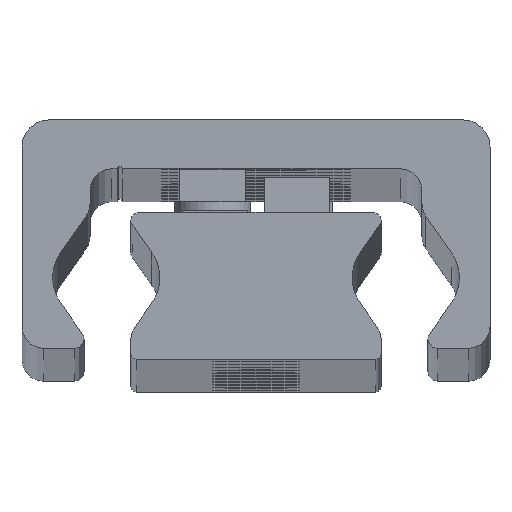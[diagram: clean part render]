
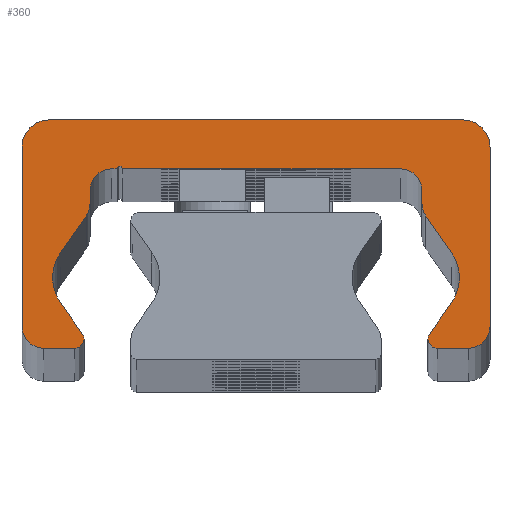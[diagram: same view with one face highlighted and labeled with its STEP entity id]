
A CAD part, top view. The second image highlights one B-rep face of the part: STEP entity #360.
In plain terms, the highlighted planar face has unit normal (0, 0, 1).
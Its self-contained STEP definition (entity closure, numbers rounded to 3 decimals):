
#360=ADVANCED_FACE('',(#1046),#1047,.T.);
#1046=FACE_OUTER_BOUND('',#1733,.T.);
#1047=PLANE('',#1734);
#1733=EDGE_LOOP('',(#4026,#4027,#4028,#4029,#4030,#4031,#4032,#4033,#4034,#4035,#4036,#4037,#4038,#4039,#4040,#4041,#4042,#4043,#4044,#4045,#4046,#4047,#4048,#4049,#4050,#4051,#4052,#4053,#4054,#4055));
#1734=AXIS2_PLACEMENT_3D('',#4056,#4057,#4058);
#4026=ORIENTED_EDGE('',*,*,#4499,.F.);
#4027=ORIENTED_EDGE('',*,*,#4822,.F.);
#4028=ORIENTED_EDGE('',*,*,#4485,.F.);
#4029=ORIENTED_EDGE('',*,*,#4821,.F.);
#4030=ORIENTED_EDGE('',*,*,#4817,.F.);
#4031=ORIENTED_EDGE('',*,*,#4814,.F.);
#4032=ORIENTED_EDGE('',*,*,#4811,.F.);
#4033=ORIENTED_EDGE('',*,*,#4808,.F.);
#4034=ORIENTED_EDGE('',*,*,#4805,.F.);
#4035=ORIENTED_EDGE('',*,*,#4802,.F.);
#4036=ORIENTED_EDGE('',*,*,#4799,.F.);
#4037=ORIENTED_EDGE('',*,*,#4796,.F.);
#4038=ORIENTED_EDGE('',*,*,#4793,.F.);
#4039=ORIENTED_EDGE('',*,*,#4790,.F.);
#4040=ORIENTED_EDGE('',*,*,#4491,.F.);
#4041=ORIENTED_EDGE('',*,*,#4788,.F.);
#4042=ORIENTED_EDGE('',*,*,#4493,.F.);
#4043=ORIENTED_EDGE('',*,*,#4787,.F.);
#4044=ORIENTED_EDGE('',*,*,#4783,.F.);
#4045=ORIENTED_EDGE('',*,*,#4780,.F.);
#4046=ORIENTED_EDGE('',*,*,#4777,.F.);
#4047=ORIENTED_EDGE('',*,*,#4774,.F.);
#4048=ORIENTED_EDGE('',*,*,#4771,.F.);
#4049=ORIENTED_EDGE('',*,*,#4768,.F.);
#4050=ORIENTED_EDGE('',*,*,#4765,.F.);
#4051=ORIENTED_EDGE('',*,*,#4762,.F.);
#4052=ORIENTED_EDGE('',*,*,#4759,.F.);
#4053=ORIENTED_EDGE('',*,*,#4756,.F.);
#4054=ORIENTED_EDGE('',*,*,#4753,.F.);
#4055=ORIENTED_EDGE('',*,*,#4750,.F.);
#4056=CARTESIAN_POINT('',(-0.023,14.187,1730.0));
#4057=DIRECTION('',(0.0,0.0,1.0));
#4058=DIRECTION('',(1.0,0.0,0.0));
#4485=EDGE_CURVE('',#5448,#5451,#5452,.T.);
#4491=EDGE_CURVE('',#5461,#5457,#5463,.T.);
#4493=EDGE_CURVE('',#5464,#5467,#5468,.T.);
#4499=EDGE_CURVE('',#5477,#5473,#5479,.T.);
#4750=EDGE_CURVE('',#5473,#5882,#5883,.T.);
#4753=EDGE_CURVE('',#5882,#5887,#5888,.T.);
#4756=EDGE_CURVE('',#5887,#5892,#5893,.T.);
#4759=EDGE_CURVE('',#5892,#5897,#5898,.T.);
#4762=EDGE_CURVE('',#5897,#5902,#5903,.T.);
#4765=EDGE_CURVE('',#5902,#5907,#5908,.T.);
#4768=EDGE_CURVE('',#5907,#5912,#5913,.T.);
#4771=EDGE_CURVE('',#5912,#5917,#5918,.T.);
#4774=EDGE_CURVE('',#5917,#5922,#5923,.T.);
#4777=EDGE_CURVE('',#5922,#5927,#5928,.T.);
#4780=EDGE_CURVE('',#5927,#5932,#5933,.T.);
#4783=EDGE_CURVE('',#5932,#5937,#5938,.T.);
#4787=EDGE_CURVE('',#5937,#5464,#5943,.T.);
#4788=EDGE_CURVE('',#5467,#5461,#5944,.T.);
#4790=EDGE_CURVE('',#5457,#5946,#5947,.T.);
#4793=EDGE_CURVE('',#5946,#5951,#5952,.T.);
#4796=EDGE_CURVE('',#5951,#5956,#5957,.T.);
#4799=EDGE_CURVE('',#5956,#5961,#5962,.T.);
#4802=EDGE_CURVE('',#5961,#5966,#5967,.T.);
#4805=EDGE_CURVE('',#5966,#5971,#5972,.T.);
#4808=EDGE_CURVE('',#5971,#5976,#5977,.T.);
#4811=EDGE_CURVE('',#5976,#5981,#5982,.T.);
#4814=EDGE_CURVE('',#5981,#5986,#5987,.T.);
#4817=EDGE_CURVE('',#5986,#5991,#5992,.T.);
#4821=EDGE_CURVE('',#5991,#5448,#5997,.T.);
#4822=EDGE_CURVE('',#5451,#5477,#5998,.T.);
#5448=VERTEX_POINT('',#6816);
#5451=VERTEX_POINT('',#6820);
#5452=CIRCLE('',#6821,0.85);
#5457=VERTEX_POINT('',#6827);
#5461=VERTEX_POINT('',#6832);
#5463=CIRCLE('',#6835,0.85);
#5464=VERTEX_POINT('',#6836);
#5467=VERTEX_POINT('',#6840);
#5468=CIRCLE('',#6841,4.);
#5473=VERTEX_POINT('',#6847);
#5477=VERTEX_POINT('',#6852);
#5479=CIRCLE('',#6855,4.);
#5882=VERTEX_POINT('',#7372);
#5883=CIRCLE('',#7373,4.);
#5887=VERTEX_POINT('',#7378);
#5888=LINE('',#7379,#7380);
#5892=VERTEX_POINT('',#7386);
#5893=CIRCLE('',#7387,2.);
#5897=VERTEX_POINT('',#7392);
#5898=LINE('',#7393,#7394);
#5902=VERTEX_POINT('',#7400);
#5903=CIRCLE('',#7401,2.0);
#5907=VERTEX_POINT('',#7406);
#5908=LINE('',#7407,#7408);
#5912=VERTEX_POINT('',#7414);
#5913=CIRCLE('',#7415,0.25);
#5917=VERTEX_POINT('',#7420);
#5918=LINE('',#7421,#7422);
#5922=VERTEX_POINT('',#7428);
#5923=CIRCLE('',#7429,2.0);
#5927=VERTEX_POINT('',#7434);
#5928=LINE('',#7435,#7436);
#5932=VERTEX_POINT('',#7442);
#5933=CIRCLE('',#7443,2.0);
#5937=VERTEX_POINT('',#7448);
#5938=LINE('',#7449,#7450);
#5943=CIRCLE('',#7457,4.);
#5944=LINE('',#7458,#7459);
#5946=VERTEX_POINT('',#7462);
#5947=CIRCLE('',#7463,0.85);
#5951=VERTEX_POINT('',#7468);
#5952=LINE('',#7469,#7470);
#5956=VERTEX_POINT('',#7476);
#5957=CIRCLE('',#7477,2.);
#5961=VERTEX_POINT('',#7482);
#5962=LINE('',#7483,#7484);
#5966=VERTEX_POINT('',#7490);
#5967=CIRCLE('',#7491,2.5);
#5971=VERTEX_POINT('',#7496);
#5972=LINE('',#7497,#7498);
#5976=VERTEX_POINT('',#7504);
#5977=CIRCLE('',#7505,2.5);
#5981=VERTEX_POINT('',#7510);
#5982=LINE('',#7511,#7512);
#5986=VERTEX_POINT('',#7518);
#5987=CIRCLE('',#7519,2.);
#5991=VERTEX_POINT('',#7524);
#5992=LINE('',#7525,#7526);
#5997=CIRCLE('',#7533,0.85);
#5998=LINE('',#7534,#7535);
#6816=CARTESIAN_POINT('',(15.8,1.859,1730.0));
#6820=CARTESIAN_POINT('',(15.922,2.298,1730.0));
#6821=AXIS2_PLACEMENT_3D('',#8331,#8332,#8333);
#6827=CARTESIAN_POINT('',(-15.8,1.859,1730.0));
#6832=CARTESIAN_POINT('',(-15.922,2.298,1730.0));
#6835=AXIS2_PLACEMENT_3D('',#8343,#8344,#8345);
#6836=CARTESIAN_POINT('',(-18.688,7.509,1730.0));
#6840=CARTESIAN_POINT('',(-17.964,5.214,1730.0));
#6841=AXIS2_PLACEMENT_3D('',#8347,#8348,#8349);
#6847=CARTESIAN_POINT('',(18.688,7.509,1730.0));
#6852=CARTESIAN_POINT('',(17.964,5.214,1730.0));
#6855=AXIS2_PLACEMENT_3D('',#8359,#8360,#8361);
#7372=CARTESIAN_POINT('',(17.964,9.803,1730.0));
#7373=AXIS2_PLACEMENT_3D('',#8884,#8885,#8886);
#7378=CARTESIAN_POINT('',(15.612,13.163,1730.0));
#7379=CARTESIAN_POINT('',(15.612,13.163,1730.0));
#7380=VECTOR('',#8891,1.0);
#7386=CARTESIAN_POINT('',(15.25,14.31,1730.0));
#7387=AXIS2_PLACEMENT_3D('',#8894,#8895,#8896);
#7392=CARTESIAN_POINT('',(15.25,15.509,1730.0));
#7393=CARTESIAN_POINT('',(15.25,15.509,1730.0));
#7394=VECTOR('',#8901,1.0);
#7400=CARTESIAN_POINT('',(13.25,17.509,1730.0));
#7401=AXIS2_PLACEMENT_3D('',#8904,#8905,#8906);
#7406=CARTESIAN_POINT('',(-12.25,17.509,1730.0));
#7407=CARTESIAN_POINT('',(-12.25,17.509,1730.0));
#7408=VECTOR('',#8911,1.0);
#7414=CARTESIAN_POINT('',(-12.75,17.509,1730.0));
#7415=AXIS2_PLACEMENT_3D('',#8914,#8915,#8916);
#7420=CARTESIAN_POINT('',(-13.25,17.509,1730.0));
#7421=CARTESIAN_POINT('',(-13.25,17.509,1730.0));
#7422=VECTOR('',#8921,1.0);
#7428=CARTESIAN_POINT('',(-15.25,15.509,1730.0));
#7429=AXIS2_PLACEMENT_3D('',#8924,#8925,#8926);
#7434=CARTESIAN_POINT('',(-15.25,14.31,1730.0));
#7435=CARTESIAN_POINT('',(-15.25,14.31,1730.0));
#7436=VECTOR('',#8931,1.0);
#7442=CARTESIAN_POINT('',(-15.612,13.163,1730.0));
#7443=AXIS2_PLACEMENT_3D('',#8934,#8935,#8936);
#7448=CARTESIAN_POINT('',(-17.964,9.803,1730.0));
#7449=CARTESIAN_POINT('',(-17.964,9.803,1730.0));
#7450=VECTOR('',#8941,1.0);
#7457=AXIS2_PLACEMENT_3D('',#8947,#8948,#8949);
#7458=CARTESIAN_POINT('',(-15.922,2.298,1730.0));
#7459=VECTOR('',#8950,1.0);
#7462=CARTESIAN_POINT('',(-16.65,1.009,1730.0));
#7463=AXIS2_PLACEMENT_3D('',#8952,#8953,#8954);
#7468=CARTESIAN_POINT('',(-19.5,1.009,1730.0));
#7469=CARTESIAN_POINT('',(-19.5,1.009,1730.0));
#7470=VECTOR('',#8959,1.0);
#7476=CARTESIAN_POINT('',(-21.5,3.009,1730.0));
#7477=AXIS2_PLACEMENT_3D('',#8962,#8963,#8964);
#7482=CARTESIAN_POINT('',(-21.5,19.509,1730.0));
#7483=CARTESIAN_POINT('',(-21.5,19.509,1730.0));
#7484=VECTOR('',#8969,1.0);
#7490=CARTESIAN_POINT('',(-19.0,22.009,1730.0));
#7491=AXIS2_PLACEMENT_3D('',#8972,#8973,#8974);
#7496=CARTESIAN_POINT('',(19.0,22.009,1730.0));
#7497=CARTESIAN_POINT('',(19.0,22.009,1730.0));
#7498=VECTOR('',#8979,1.0);
#7504=CARTESIAN_POINT('',(21.5,19.509,1730.0));
#7505=AXIS2_PLACEMENT_3D('',#8982,#8983,#8984);
#7510=CARTESIAN_POINT('',(21.5,3.009,1730.0));
#7511=CARTESIAN_POINT('',(21.5,3.009,1730.0));
#7512=VECTOR('',#8989,1.0);
#7518=CARTESIAN_POINT('',(19.5,1.009,1730.0));
#7519=AXIS2_PLACEMENT_3D('',#8992,#8993,#8994);
#7524=CARTESIAN_POINT('',(16.65,1.009,1730.0));
#7525=CARTESIAN_POINT('',(16.65,1.009,1730.0));
#7526=VECTOR('',#8999,1.0);
#7533=AXIS2_PLACEMENT_3D('',#9005,#9006,#9007);
#7534=CARTESIAN_POINT('',(17.964,5.214,1730.0));
#7535=VECTOR('',#9008,1.0);
#8331=CARTESIAN_POINT('',(16.65,1.859,1730.0));
#8332=DIRECTION('',(0.0,0.0,-1.0));
#8333=DIRECTION('',(1.0,0.0,0.0));
#8343=CARTESIAN_POINT('',(-16.65,1.859,1730.0));
#8344=DIRECTION('',(0.0,0.0,-1.0));
#8345=DIRECTION('',(1.0,0.0,0.0));
#8347=CARTESIAN_POINT('',(-14.688,7.509,1730.0));
#8348=DIRECTION('',(0.0,0.0,1.0));
#8349=DIRECTION('',(1.0,0.0,0.0));
#8359=CARTESIAN_POINT('',(14.688,7.509,1730.0));
#8360=DIRECTION('',(0.0,0.0,1.0));
#8361=DIRECTION('',(1.0,0.0,0.0));
#8884=CARTESIAN_POINT('',(14.688,7.509,1730.0));
#8885=DIRECTION('',(0.0,0.0,1.0));
#8886=DIRECTION('',(1.0,0.0,0.0));
#8891=DIRECTION('',(-0.574,0.819,0.0));
#8894=CARTESIAN_POINT('',(17.25,14.31,1730.0));
#8895=DIRECTION('',(0.0,0.0,-1.0));
#8896=DIRECTION('',(1.0,0.0,0.0));
#8901=DIRECTION('',(0.0,1.0,0.0));
#8904=CARTESIAN_POINT('',(13.25,15.509,1730.0));
#8905=DIRECTION('',(0.0,0.0,1.0));
#8906=DIRECTION('',(1.0,0.0,0.0));
#8911=DIRECTION('',(-1.0,-0.0,-0.0));
#8914=CARTESIAN_POINT('',(-12.5,17.509,1730.0));
#8915=DIRECTION('',(0.0,0.0,1.0));
#8916=DIRECTION('',(1.0,0.0,0.0));
#8921=DIRECTION('',(-1.0,-0.0,-0.0));
#8924=CARTESIAN_POINT('',(-13.25,15.509,1730.0));
#8925=DIRECTION('',(0.0,0.0,1.0));
#8926=DIRECTION('',(1.0,0.0,0.0));
#8931=DIRECTION('',(-0.0,-1.0,-0.0));
#8934=CARTESIAN_POINT('',(-17.25,14.31,1730.0));
#8935=DIRECTION('',(0.0,0.0,-1.0));
#8936=DIRECTION('',(1.0,0.0,0.0));
#8941=DIRECTION('',(-0.574,-0.819,-0.0));
#8947=CARTESIAN_POINT('',(-14.688,7.509,1730.0));
#8948=DIRECTION('',(0.0,0.0,1.0));
#8949=DIRECTION('',(1.0,0.0,0.0));
#8950=DIRECTION('',(0.574,-0.819,0.0));
#8952=CARTESIAN_POINT('',(-16.65,1.859,1730.0));
#8953=DIRECTION('',(0.0,0.0,-1.0));
#8954=DIRECTION('',(1.0,0.0,0.0));
#8959=DIRECTION('',(-1.0,-0.0,-0.0));
#8962=CARTESIAN_POINT('',(-19.5,3.009,1730.0));
#8963=DIRECTION('',(0.0,0.0,-1.0));
#8964=DIRECTION('',(1.0,0.0,0.0));
#8969=DIRECTION('',(0.0,1.0,0.0));
#8972=CARTESIAN_POINT('',(-19.0,19.509,1730.0));
#8973=DIRECTION('',(0.0,0.0,-1.0));
#8974=DIRECTION('',(1.0,0.0,0.0));
#8979=DIRECTION('',(1.0,0.0,0.0));
#8982=CARTESIAN_POINT('',(19.0,19.509,1730.0));
#8983=DIRECTION('',(0.0,0.0,-1.0));
#8984=DIRECTION('',(1.0,0.0,0.0));
#8989=DIRECTION('',(-0.0,-1.0,-0.0));
#8992=CARTESIAN_POINT('',(19.5,3.009,1730.0));
#8993=DIRECTION('',(0.0,0.0,-1.0));
#8994=DIRECTION('',(1.0,0.0,0.0));
#8999=DIRECTION('',(-1.0,-0.0,-0.0));
#9005=CARTESIAN_POINT('',(16.65,1.859,1730.0));
#9006=DIRECTION('',(0.0,0.0,-1.0));
#9007=DIRECTION('',(1.0,0.0,0.0));
#9008=DIRECTION('',(0.574,0.819,0.0));
